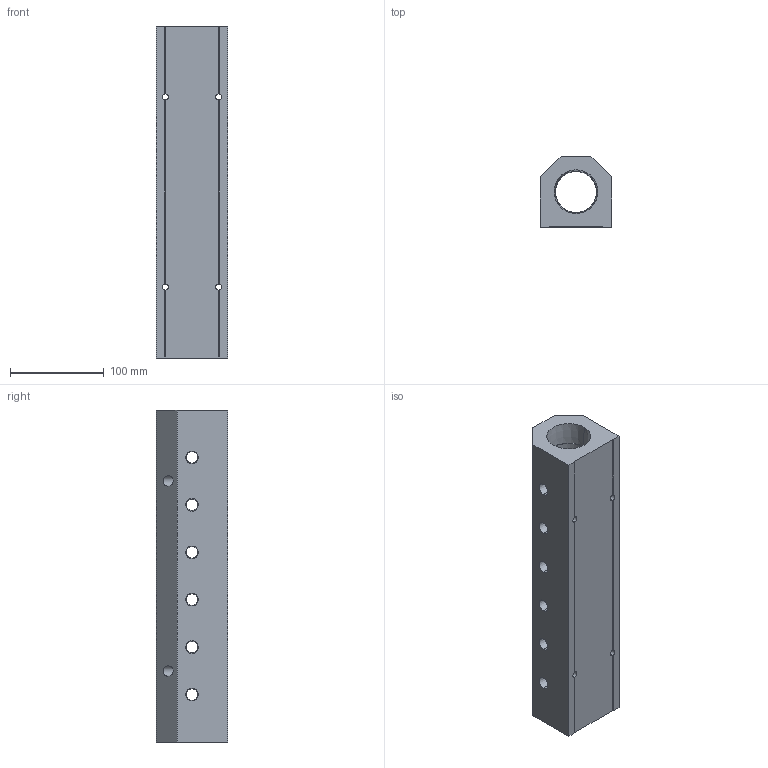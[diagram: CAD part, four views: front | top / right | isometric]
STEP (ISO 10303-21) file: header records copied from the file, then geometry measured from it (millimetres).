
FILE_DESCRIPTION (( 'STEP AP214' ), '1' );
FILE_NAME ('ALM6ACE-N4N24-355R.step', '2022-02-07T07:39:47', ( '' ), ( '' ), 'SwSTEP 2.0', 'SolidWorks 2020', '' );
FILE_SCHEMA (( 'AUTOMOTIVE_DESIGN' ));
Length unit declared in the file: millimetre
Products named in the file (1): ALM6ACE-N4N24-355R
Bounding box: 76.2 x 76.2 x 355 mm (x, y, z)
Volume: 1281614.8 mm3; surface area: 168543.7 mm2
Topology: 1 solids, 1 shells, 347 faces, 943 edges, 618 vertices
Faces by surface type: plane 227, bspline 62, cone 40, cylinder 18
Entity records: 19661 total; most frequent: CARTESIAN_POINT 7965, ORIENTED_EDGE 1886, DIRECTION 1411, EDGE_CURVE 943, LINE 695, VECTOR 695, VERTEX_POINT 618, EDGE_LOOP 413
